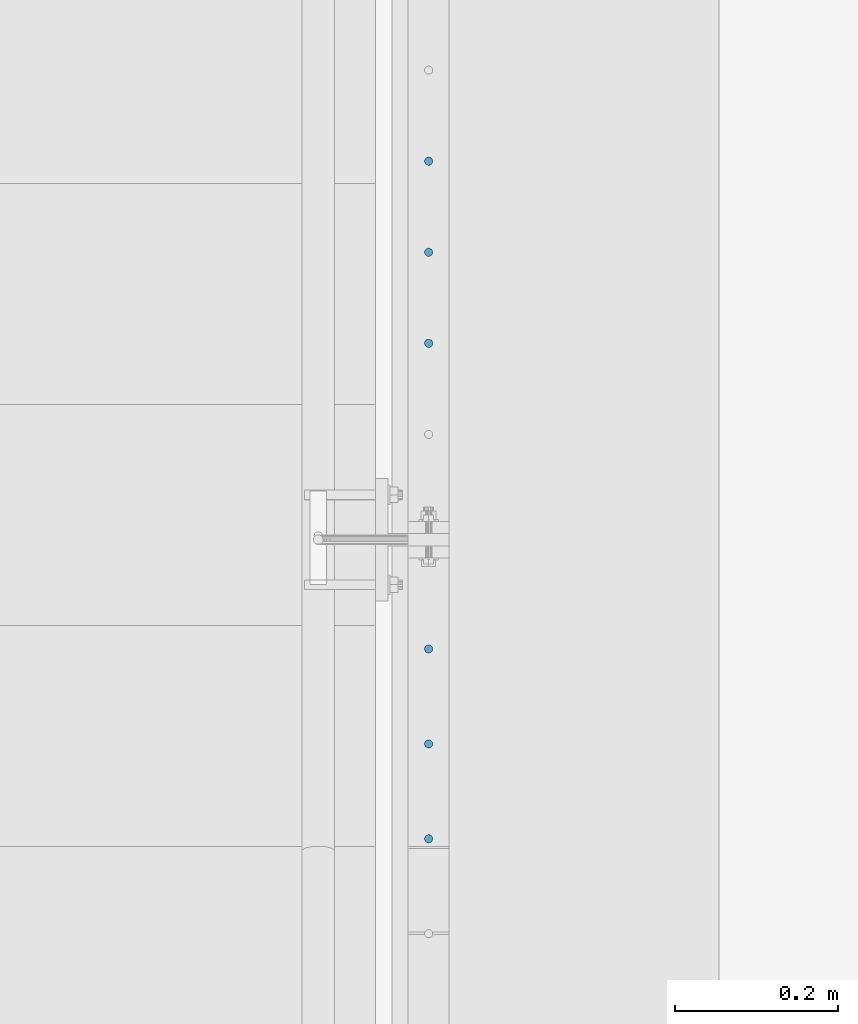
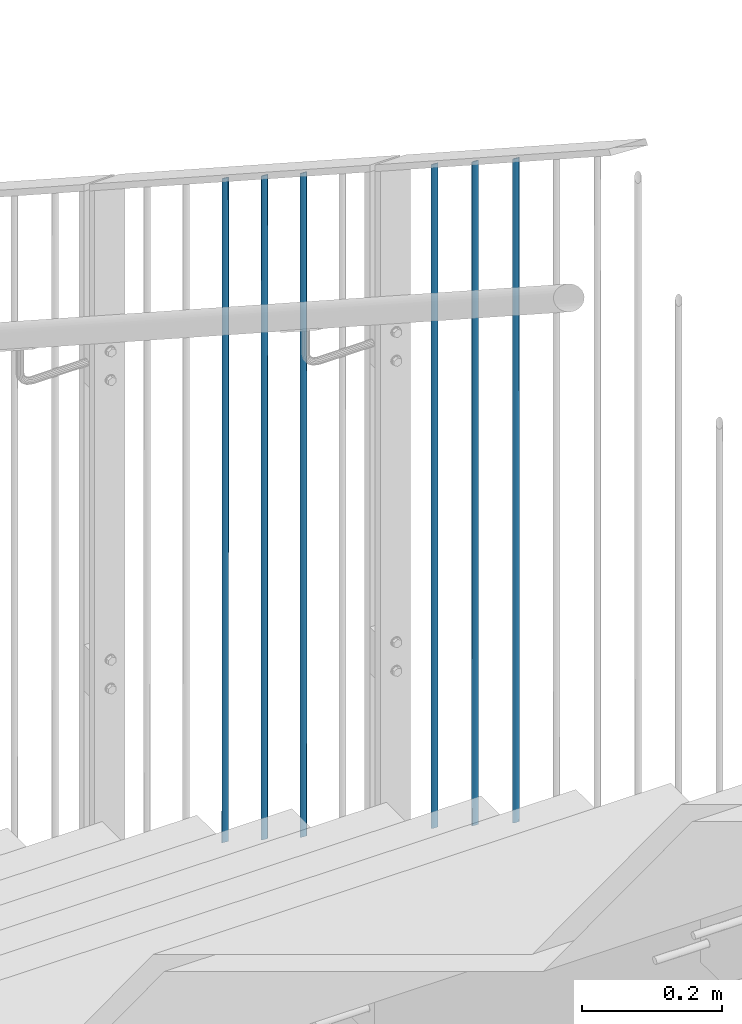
# One storey, part 38 of 296: 6 columns.
"""IFC2X3 building model written with IfcOpenShell, lengths in millimetres."""

from ifc_helpers import new_model, entity, si_unit, converted_unit, frame, origin, origin_with_axes, origin_2d, place, context, project, spatial, circle, extrude, clip, halfspace, material, element, save


model = new_model("IFC2X3")

# Units and contexts
model_context = context("Model", 3, precision=1e-09, world=origin_with_axes())
ifc_project = project(units=[si_unit("LENGTHUNIT", "METRE", prefix="MILLI"), si_unit("AREAUNIT", "SQUARE_METRE"), si_unit("VOLUMEUNIT", "CUBIC_METRE"), converted_unit("PLANEANGLEUNIT", "DEGREE", entity("IfcPlaneAngleMeasure", 0.01745329), si_unit("PLANEANGLEUNIT", "RADIAN"), dimensions=[0, 0, 0, 0, 0, 0, 0])], contexts=[model_context])

# Site, building, storey
site_placement = place(None, origin_with_axes())
site = spatial("IfcSite", under=ifc_project, at=site_placement, Name="TZD-S?d | Treppenhausgel?nder", CompositionType="ELEMENT")
building_placement = place(site_placement, origin_with_axes())
building = spatial("IfcBuilding", under=site, at=building_placement, Name="Struktur 1", CompositionType="ELEMENT")
storey_placement = place(building_placement, origin_with_axes())
storey = spatial("IfcBuildingStorey", under=building, at=storey_placement, Name="Default Storey", CompositionType="ELEMENT", Elevation=0.0)

# Columns
ifc_material = material(Name="S235JR")
column_1_placement = place(None, frame((5894.999, -2700.8333334, 9183.749047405), z_axis=(0.0, 0.0, -1.0), x_axis=(0.0, 1.0, 0.0)))
element("IfcColumn", 1, at=column_1_placement, inside=storey, material=ifc_material, Name="-", ObjectType="-", context=model_context, shape_type="Clipping", body=[
    clip(clip(extrude(circle(Radius=5.0, at=origin_2d()), origin(), (0.0, 0.0, -1.0), 1184.934996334), halfspace(frame((6627.084016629, -5894.999, 3121.558729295), z_axis=(-0.543608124, 0.0, 0.839339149), x_axis=(0.0, 1.0, 0.0)), True)), halfspace(frame((6099.556801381, -5894.999, 3936.068712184), z_axis=(0.543608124, 0.0, -0.839339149), x_axis=(0.0, -1.0, 0.0)), True)),
])
column_2_placement = place(None, frame((5894.999, -2584.7222223, 9108.548285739), z_axis=(0.0, 0.0, -1.0), x_axis=(0.0, 1.0, 0.0)))
element("IfcColumn", 2, at=column_2_placement, inside=storey, material=ifc_material, Name="-", ObjectType="-", context=model_context, shape_type="Clipping", body=[
    clip(clip(extrude(circle(Radius=5.0, at=origin_2d()), origin(), (0.0, 0.0, -1.0), 1184.934996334), halfspace(frame((6510.972905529, -5894.999, 3046.357967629), z_axis=(-0.543608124, 0.0, 0.839339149), x_axis=(0.0, 1.0, 0.0)), True)), halfspace(frame((5983.445690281, -5894.999, 3860.867950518), z_axis=(0.543608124, 0.0, -0.839339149), x_axis=(0.0, -1.0, 0.0)), True)),
])
column_3_placement = place(None, frame((5894.999, -2468.6111112, 9033.347524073), z_axis=(0.0, 0.0, -1.0), x_axis=(0.0, 1.0, 0.0)))
element("IfcColumn", 3, at=column_3_placement, inside=storey, material=ifc_material, Name="-", ObjectType="-", context=model_context, shape_type="Clipping", body=[
    clip(clip(extrude(circle(Radius=5.0, at=origin_2d()), origin(), (0.0, 0.0, -1.0), 1184.934996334), halfspace(frame((6394.861794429, -5894.999, 2971.157205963), z_axis=(-0.543608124, 0.0, 0.839339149), x_axis=(0.0, 1.0, 0.0)), True)), halfspace(frame((5867.334579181, -5894.999, 3785.667188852), z_axis=(0.543608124, 0.0, -0.839339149), x_axis=(0.0, -1.0, 0.0)), True)),
])
column_4_placement = place(None, frame((5894.999, -2094.6428572, 8791.142473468), z_axis=(0.0, 0.0, -1.0), x_axis=(0.0, 1.0, 0.0)))
element("IfcColumn", 4, at=column_4_placement, inside=storey, material=ifc_material, Name="-", ObjectType="-", context=model_context, shape_type="Clipping", body=[
    clip(clip(extrude(circle(Radius=5.0, at=origin_2d()), origin(), (0.0, 0.0, -1.0), 1184.934996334), halfspace(frame((5493.366325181, -5894.999, 3543.462138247), z_axis=(0.543608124, 0.0, -0.839339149), x_axis=(0.0, -1.0, 0.0)), True)), halfspace(frame((6020.893540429, -5894.999, 2728.952155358), z_axis=(-0.543608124, 0.0, 0.839339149), x_axis=(0.0, 1.0, 0.0)), True)),
])
column_5_placement = place(None, frame((5894.999, -1983.2142858, 8718.974415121), z_axis=(0.0, 0.0, -1.0), x_axis=(0.0, 1.0, 0.0)))
element("IfcColumn", 5, at=column_5_placement, inside=storey, material=ifc_material, Name="-", ObjectType="-", context=model_context, shape_type="Clipping", body=[
    clip(clip(extrude(circle(Radius=5.0, at=origin_2d()), origin(), (0.0, 0.0, -1.0), 1184.934996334), halfspace(frame((5381.937753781, -5894.999, 3471.2940799), z_axis=(0.543608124, 0.0, -0.839339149), x_axis=(0.0, -1.0, 0.0)), True)), halfspace(frame((5909.464969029, -5894.999, 2656.784097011), z_axis=(-0.543608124, 0.0, 0.839339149), x_axis=(0.0, 1.0, 0.0)), True)),
])
column_6_placement = place(None, frame((5894.999, -1871.7857144, 8646.806356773), z_axis=(0.0, 0.0, -1.0), x_axis=(0.0, 1.0, 0.0)))
element("IfcColumn", 6, at=column_6_placement, inside=storey, material=ifc_material, Name="-", ObjectType="-", context=model_context, shape_type="Clipping", body=[
    clip(clip(extrude(circle(Radius=5.0, at=origin_2d()), origin(), (0.0, 0.0, -1.0), 1184.934996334), halfspace(frame((5798.036397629, -5894.999, 2584.616038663), z_axis=(-0.543608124, 0.0, 0.839339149), x_axis=(0.0, 1.0, 0.0)), True)), halfspace(frame((5270.509182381, -5894.999, 3399.126021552), z_axis=(0.543608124, 0.0, -0.839339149), x_axis=(0.0, -1.0, 0.0)), True)),
])

save(model, "model.ifc")
